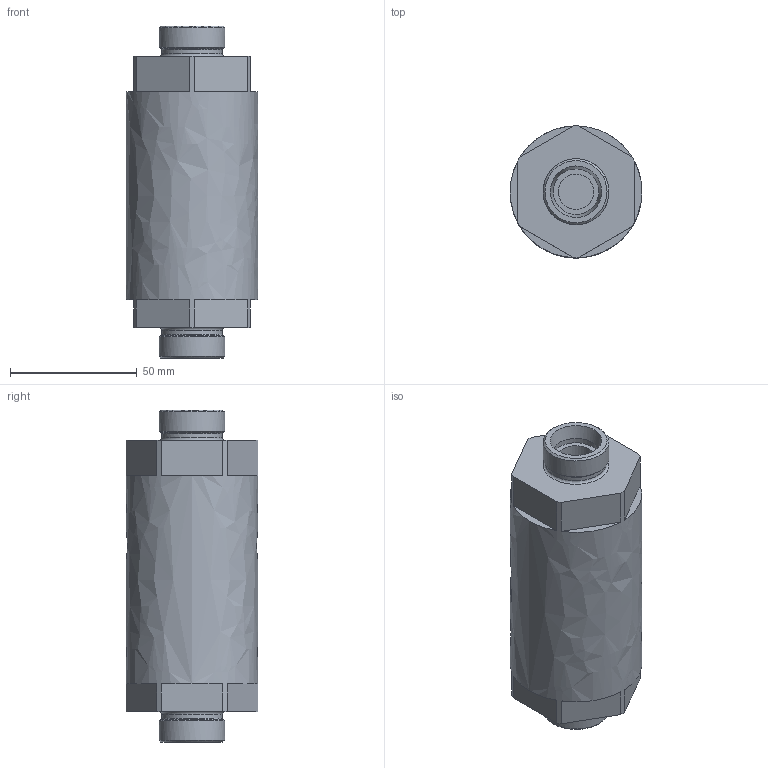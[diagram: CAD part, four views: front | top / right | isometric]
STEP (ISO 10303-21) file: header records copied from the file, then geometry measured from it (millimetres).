
FILE_DESCRIPTION((''),'2;1');
FILE_NAME('U:\Users\i.maeder\HD081-111_13558100.stp', '2013-08-06T12:44:04',('User'),('SDRC'),'I-DEAS Master Series 9','UNIX', 'Yes');
FILE_SCHEMA(('AUTOMOTIVE_DESIGN { 1 0 10303 214 1 1 1 1 }'));
Length unit declared in the file: millimetre
Products named in the file (1): 13558100(236808)
Bounding box: 52 x 52 x 131 mm (x, y, z)
Volume: 226928.2 mm3; surface area: 25125.6 mm2
Topology: 1 solids, 1 shells, 61 faces, 144 edges, 92 vertices
Faces by surface type: bspline 61
Entity records: 2160 total; most frequent: CARTESIAN_POINT 1270, ORIENTED_EDGE 288, EDGE_CURVE 144, VERTEX_POINT 92, EDGE_LOOP 68, FACE_OUTER_BOUND 61, ADVANCED_FACE 61, QUASI_UNIFORM_CURVE 57
